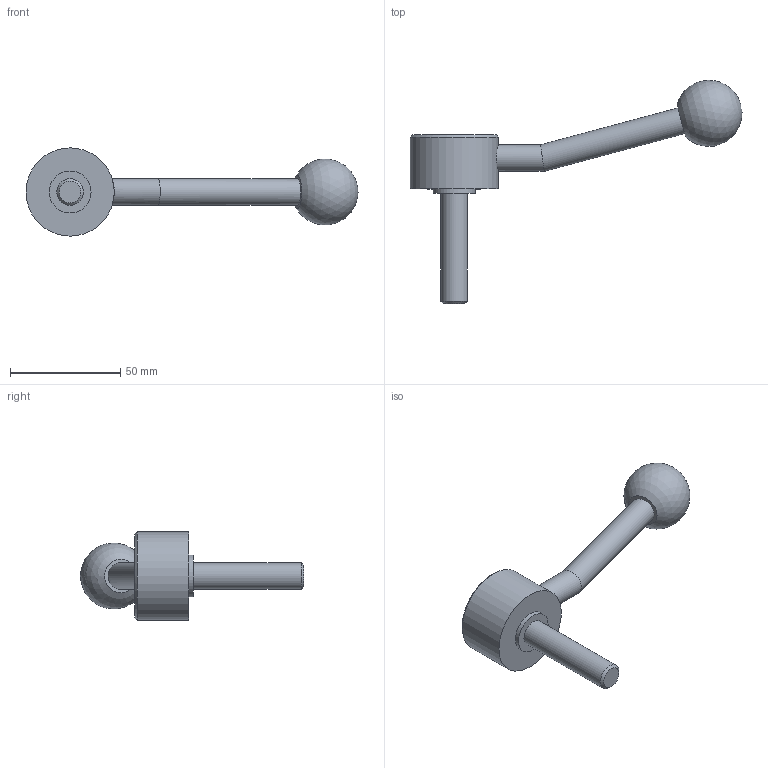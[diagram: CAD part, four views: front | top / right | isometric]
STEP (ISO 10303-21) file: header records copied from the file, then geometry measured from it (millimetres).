
FILE_DESCRIPTION( ( 'STEP AP203' ), '1' );
FILE_NAME( 'C:/Temp/Ganter_Step_05_03_2020/data/2_1/gn_125/gn_125_ms/gn_125_ms_e/Flat Adjustable Lever GN 125-40-M12-50-E.stp', '2020-03-05T11:01:01', ( 'License CC BY-ND 4.0' ), ( 'CADENAS' ), ' ', 'PARTsolutions', ' ' );
FILE_SCHEMA( ( 'CONFIG_CONTROL_DESIGN' ) );
Length unit declared in the file: millimetre
Products named in the file (1): _Flat Adjustable Lever GN 125-40-M12-50-E
Bounding box: 150.51 x 101.23 x 40 mm (x, y, z)
Volume: 60386.2 mm3; surface area: 13335 mm2
Topology: 1 solids, 1 shells, 15 faces, 25 edges, 16 vertices
Faces by surface type: cylinder 6, plane 6, cone 2, sphere 1
Full cylindrical faces by diameter (mm): 12 x3, 19 x1, 28 x1, 40 x1
Entity records: 422 total; most frequent: CARTESIAN_POINT 128, DIRECTION 58, AXIS2_PLACEMENT_3D 29, EDGE_LOOP 28, ORIENTED_EDGE 28, FACE_OUTER_BOUND 21, ADVANCED_FACE 15, VERTEX_POINT 15
